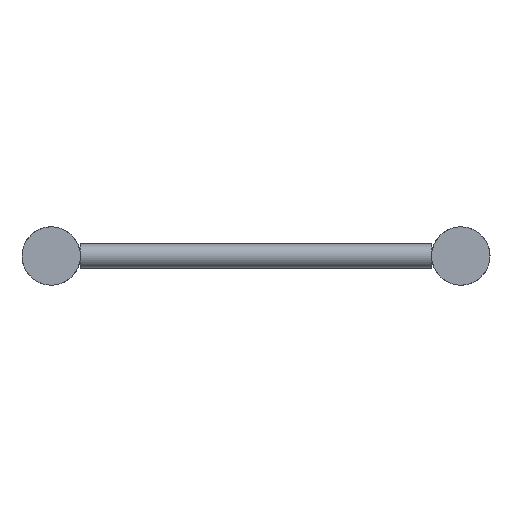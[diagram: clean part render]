
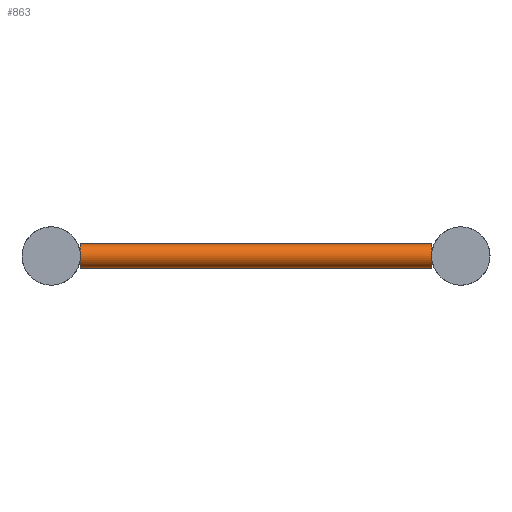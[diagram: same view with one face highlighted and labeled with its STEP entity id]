
A CAD part, left-side view. The second image highlights one B-rep face of the part: STEP entity #863.
In plain terms, the highlighted cylindrical face has radius 10 mm (diameter 20 mm), a full revolution.
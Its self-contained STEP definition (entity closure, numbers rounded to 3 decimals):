
#53=CIRCLE('',#971,10.);
#54=CIRCLE('',#973,10.);
#55=CIRCLE('',#975,10.);
#56=CIRCLE('',#977,10.);
#101=FACE_BOUND('',#288,.T.);
#151=CYLINDRICAL_SURFACE('',#976,10.);
#200=FACE_OUTER_BOUND('',#287,.T.);
#287=EDGE_LOOP('',(#592,#593));
#288=EDGE_LOOP('',(#594,#595));
#414=VERTEX_POINT('',#1396);
#415=VERTEX_POINT('',#1397);
#416=VERTEX_POINT('',#1401);
#417=VERTEX_POINT('',#1402);
#489=EDGE_CURVE('',#415,#414,#53,.T.);
#491=EDGE_CURVE('',#417,#416,#54,.T.);
#492=EDGE_CURVE('',#414,#415,#55,.T.);
#493=EDGE_CURVE('',#416,#417,#56,.T.);
#592=ORIENTED_EDGE('',*,*,#489,.T.);
#593=ORIENTED_EDGE('',*,*,#492,.T.);
#594=ORIENTED_EDGE('',*,*,#491,.T.);
#595=ORIENTED_EDGE('',*,*,#493,.T.);
#863=ADVANCED_FACE('',(#200,#101),#151,.T.);
#971=AXIS2_PLACEMENT_3D('',#1399,#1156,#1157);
#973=AXIS2_PLACEMENT_3D('',#1404,#1161,#1162);
#975=AXIS2_PLACEMENT_3D('',#1406,#1165,#1166);
#976=AXIS2_PLACEMENT_3D('',#1407,#1167,#1168);
#977=AXIS2_PLACEMENT_3D('',#1408,#1169,#1170);
#1156=DIRECTION('center_axis',(0.,1.,0.));
#1157=DIRECTION('ref_axis',(-1.,0.,0.));
#1161=DIRECTION('center_axis',(0.,-1.,0.));
#1162=DIRECTION('ref_axis',(-1.,0.,0.));
#1165=DIRECTION('center_axis',(0.,1.,0.));
#1166=DIRECTION('ref_axis',(-1.,0.,0.));
#1167=DIRECTION('center_axis',(0.,1.,0.));
#1168=DIRECTION('ref_axis',(-1.,0.,0.));
#1169=DIRECTION('center_axis',(0.,-1.,0.));
#1170=DIRECTION('ref_axis',(-1.,0.,0.));
#1396=CARTESIAN_POINT('',(50.,24.15,0.));
#1397=CARTESIAN_POINT('',(70.,24.15,0.));
#1399=CARTESIAN_POINT('Origin',(60.,24.15,0.));
#1401=CARTESIAN_POINT('',(50.,314.85,0.));
#1402=CARTESIAN_POINT('',(70.,314.85,0.));
#1404=CARTESIAN_POINT('Origin',(60.,314.85,0.));
#1406=CARTESIAN_POINT('Origin',(60.,24.15,0.));
#1407=CARTESIAN_POINT('Origin',(60.,169.5,0.));
#1408=CARTESIAN_POINT('Origin',(60.,314.85,0.));
